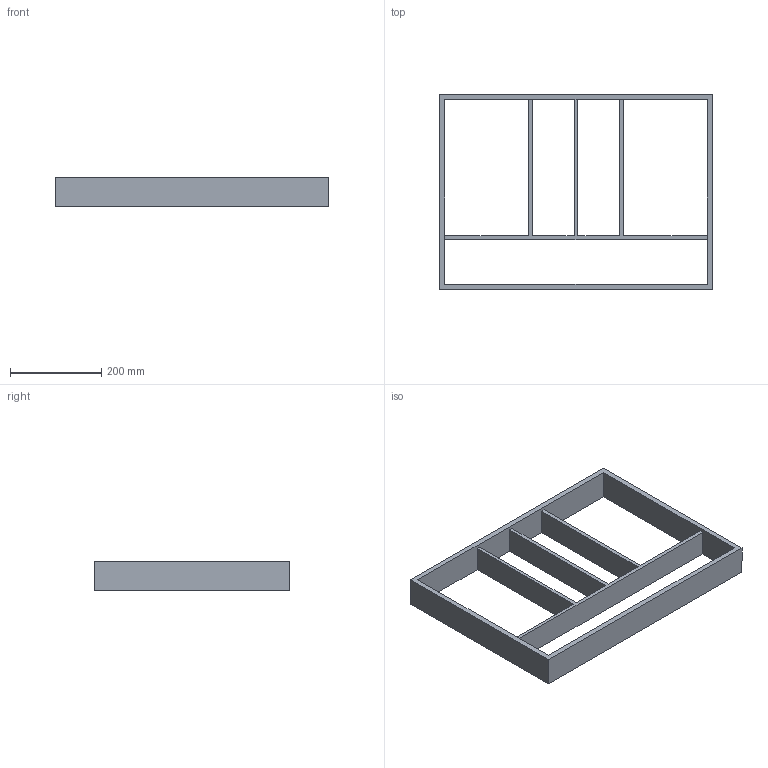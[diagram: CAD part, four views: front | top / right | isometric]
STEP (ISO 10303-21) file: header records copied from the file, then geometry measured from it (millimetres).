
FILE_DESCRIPTION (( 'STEP AP214' ), '1' );
FILE_NAME ('Vario Multi NL450_ZE600_16 mm_Buche.step', '2010-10-07T06:24:23', ( 'grass' ), ( '' ), 'SwSTEP 2.0', 'SolidWorks 2010', '' );
FILE_SCHEMA (( 'AUTOMOTIVE_DESIGN' ));
Length unit declared in the file: millimetre
Products named in the file (1): Vario Multi NL450_ZE600_16 mm_Buche
Bounding box: 600 x 429 x 65 mm (x, y, z)
Volume: 2239214.4 mm3; surface area: 497304 mm2
Topology: 1 solids, 1 shells, 22 faces, 72 edges, 48 vertices
Faces by surface type: plane 22
Entity records: 830 total; most frequent: ORIENTED_EDGE 144, CARTESIAN_POINT 143, DIRECTION 118, EDGE_CURVE 72, VECTOR 72, LINE 72, VERTEX_POINT 48, EDGE_LOOP 28
